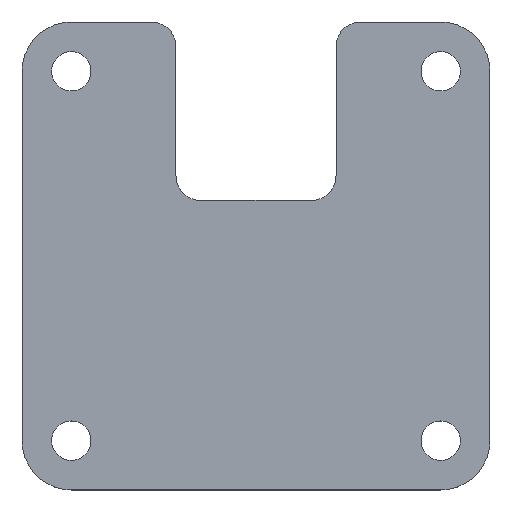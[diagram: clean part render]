
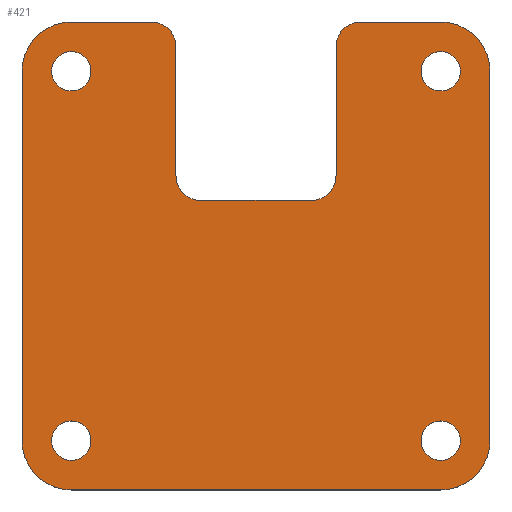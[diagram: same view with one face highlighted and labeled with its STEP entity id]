
A CAD part, top view. The second image highlights one B-rep face of the part: STEP entity #421.
In plain terms, the highlighted planar face has unit normal (0, 0, 1).
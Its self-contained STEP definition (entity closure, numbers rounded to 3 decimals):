
#19=FACE_BOUND('',#68,.T.);
#20=FACE_BOUND('',#69,.T.);
#21=FACE_BOUND('',#70,.T.);
#22=FACE_BOUND('',#71,.T.);
#27=PLANE('',#479);
#41=FACE_OUTER_BOUND('',#67,.T.);
#67=EDGE_LOOP('',(#329,#330,#331,#332,#333,#334,#335,#336,#337,#338,#339,
#340,#341,#342,#343,#344));
#68=EDGE_LOOP('',(#345));
#69=EDGE_LOOP('',(#346));
#70=EDGE_LOOP('',(#347));
#71=EDGE_LOOP('',(#348));
#89=LINE('',#646,#125);
#99=LINE('',#691,#135);
#102=LINE('',#697,#138);
#104=LINE('',#705,#140);
#105=LINE('',#709,#141);
#106=LINE('',#713,#142);
#107=LINE('',#717,#143);
#108=LINE('',#720,#144);
#125=VECTOR('',#515,10.);
#135=VECTOR('',#555,10.);
#138=VECTOR('',#560,10.);
#140=VECTOR('',#572,10.);
#141=VECTOR('',#575,10.);
#142=VECTOR('',#578,10.);
#143=VECTOR('',#581,10.);
#144=VECTOR('',#584,10.);
#157=CIRCLE('',#456,2.);
#170=CIRCLE('',#472,2.);
#171=CIRCLE('',#476,2.);
#172=CIRCLE('',#478,2.);
#173=CIRCLE('',#480,4.);
#174=CIRCLE('',#481,4.);
#175=CIRCLE('',#482,4.);
#176=CIRCLE('',#483,4.);
#177=CIRCLE('',#484,1.6);
#178=CIRCLE('',#485,1.6);
#179=CIRCLE('',#486,1.6);
#180=CIRCLE('',#487,1.6);
#181=VERTEX_POINT('',#633);
#182=VERTEX_POINT('',#634);
#186=VERTEX_POINT('',#644);
#204=VERTEX_POINT('',#684);
#205=VERTEX_POINT('',#686);
#206=VERTEX_POINT('',#690);
#207=VERTEX_POINT('',#694);
#208=VERTEX_POINT('',#696);
#209=VERTEX_POINT('',#704);
#210=VERTEX_POINT('',#706);
#211=VERTEX_POINT('',#708);
#212=VERTEX_POINT('',#710);
#213=VERTEX_POINT('',#712);
#214=VERTEX_POINT('',#714);
#215=VERTEX_POINT('',#716);
#216=VERTEX_POINT('',#718);
#217=VERTEX_POINT('',#721);
#218=VERTEX_POINT('',#723);
#219=VERTEX_POINT('',#725);
#220=VERTEX_POINT('',#727);
#221=EDGE_CURVE('',#181,#182,#157,.T.);
#227=EDGE_CURVE('',#181,#186,#89,.T.);
#247=EDGE_CURVE('',#204,#205,#170,.T.);
#249=EDGE_CURVE('',#206,#205,#99,.T.);
#252=EDGE_CURVE('',#208,#207,#102,.T.);
#254=EDGE_CURVE('',#186,#208,#171,.T.);
#255=EDGE_CURVE('',#207,#206,#172,.T.);
#256=EDGE_CURVE('',#204,#209,#104,.T.);
#257=EDGE_CURVE('',#209,#210,#173,.T.);
#258=EDGE_CURVE('',#210,#211,#105,.T.);
#259=EDGE_CURVE('',#211,#212,#174,.T.);
#260=EDGE_CURVE('',#212,#213,#106,.T.);
#261=EDGE_CURVE('',#213,#214,#175,.T.);
#262=EDGE_CURVE('',#214,#215,#107,.T.);
#263=EDGE_CURVE('',#215,#216,#176,.T.);
#264=EDGE_CURVE('',#216,#182,#108,.T.);
#265=EDGE_CURVE('',#217,#217,#177,.T.);
#266=EDGE_CURVE('',#218,#218,#178,.T.);
#267=EDGE_CURVE('',#219,#219,#179,.T.);
#268=EDGE_CURVE('',#220,#220,#180,.T.);
#329=ORIENTED_EDGE('',*,*,#221,.F.);
#330=ORIENTED_EDGE('',*,*,#227,.T.);
#331=ORIENTED_EDGE('',*,*,#254,.T.);
#332=ORIENTED_EDGE('',*,*,#252,.T.);
#333=ORIENTED_EDGE('',*,*,#255,.T.);
#334=ORIENTED_EDGE('',*,*,#249,.T.);
#335=ORIENTED_EDGE('',*,*,#247,.F.);
#336=ORIENTED_EDGE('',*,*,#256,.T.);
#337=ORIENTED_EDGE('',*,*,#257,.T.);
#338=ORIENTED_EDGE('',*,*,#258,.T.);
#339=ORIENTED_EDGE('',*,*,#259,.T.);
#340=ORIENTED_EDGE('',*,*,#260,.T.);
#341=ORIENTED_EDGE('',*,*,#261,.T.);
#342=ORIENTED_EDGE('',*,*,#262,.T.);
#343=ORIENTED_EDGE('',*,*,#263,.T.);
#344=ORIENTED_EDGE('',*,*,#264,.T.);
#345=ORIENTED_EDGE('',*,*,#265,.T.);
#346=ORIENTED_EDGE('',*,*,#266,.T.);
#347=ORIENTED_EDGE('',*,*,#267,.T.);
#348=ORIENTED_EDGE('',*,*,#268,.T.);
#421=ADVANCED_FACE('',(#41,#19,#20,#21,#22),#27,.T.);
#456=AXIS2_PLACEMENT_3D('',#635,#505,#506);
#472=AXIS2_PLACEMENT_3D('',#687,#550,#551);
#476=AXIS2_PLACEMENT_3D('',#700,#564,#565);
#478=AXIS2_PLACEMENT_3D('',#702,#568,#569);
#479=AXIS2_PLACEMENT_3D('',#703,#570,#571);
#480=AXIS2_PLACEMENT_3D('',#707,#573,#574);
#481=AXIS2_PLACEMENT_3D('',#711,#576,#577);
#482=AXIS2_PLACEMENT_3D('',#715,#579,#580);
#483=AXIS2_PLACEMENT_3D('',#719,#582,#583);
#484=AXIS2_PLACEMENT_3D('',#722,#585,#586);
#485=AXIS2_PLACEMENT_3D('',#724,#587,#588);
#486=AXIS2_PLACEMENT_3D('',#726,#589,#590);
#487=AXIS2_PLACEMENT_3D('',#728,#591,#592);
#505=DIRECTION('center_axis',(0.,0.,-1.));
#506=DIRECTION('ref_axis',(-0.707,0.707,0.));
#515=DIRECTION('',(0.,-1.,0.));
#550=DIRECTION('center_axis',(0.,0.,-1.));
#551=DIRECTION('ref_axis',(0.707,0.707,0.));
#555=DIRECTION('',(0.,1.,0.));
#560=DIRECTION('',(-1.,0.,0.));
#564=DIRECTION('center_axis',(0.,0.,-1.));
#565=DIRECTION('ref_axis',(0.,-1.,0.));
#568=DIRECTION('center_axis',(0.,0.,-1.));
#569=DIRECTION('ref_axis',(-1.,0.,0.));
#570=DIRECTION('center_axis',(0.,0.,1.));
#571=DIRECTION('ref_axis',(1.,0.,0.));
#572=DIRECTION('',(-1.,0.,0.));
#573=DIRECTION('center_axis',(0.,0.,1.));
#574=DIRECTION('ref_axis',(0.,1.,0.));
#575=DIRECTION('',(0.,-1.,0.));
#576=DIRECTION('center_axis',(0.,0.,1.));
#577=DIRECTION('ref_axis',(-1.,0.,0.));
#578=DIRECTION('',(1.,0.,0.));
#579=DIRECTION('center_axis',(0.,0.,1.));
#580=DIRECTION('ref_axis',(0.,-1.,0.));
#581=DIRECTION('',(0.,1.,0.));
#582=DIRECTION('center_axis',(0.,0.,1.));
#583=DIRECTION('ref_axis',(1.,0.,0.));
#584=DIRECTION('',(-1.,0.,0.));
#585=DIRECTION('center_axis',(0.,0.,-1.));
#586=DIRECTION('ref_axis',(1.,0.,0.));
#587=DIRECTION('center_axis',(0.,0.,-1.));
#588=DIRECTION('ref_axis',(1.,0.,0.));
#589=DIRECTION('center_axis',(0.,0.,-1.));
#590=DIRECTION('ref_axis',(1.,0.,0.));
#591=DIRECTION('center_axis',(0.,0.,-1.));
#592=DIRECTION('ref_axis',(1.,0.,0.));
#633=CARTESIAN_POINT('',(29.571,17.,2.));
#634=CARTESIAN_POINT('',(31.571,19.,2.));
#635=CARTESIAN_POINT('Origin',(31.571,17.,2.));
#644=CARTESIAN_POINT('',(29.571,6.507,2.));
#646=CARTESIAN_POINT('',(29.571,11.45,2.));
#684=CARTESIAN_POINT('',(14.571,19.,2.));
#686=CARTESIAN_POINT('',(16.571,17.,2.));
#687=CARTESIAN_POINT('Origin',(14.571,17.,2.));
#690=CARTESIAN_POINT('',(16.571,6.507,2.));
#691=CARTESIAN_POINT('',(16.571,3.254,2.));
#694=CARTESIAN_POINT('',(18.571,4.507,2.));
#696=CARTESIAN_POINT('',(27.571,4.507,2.));
#697=CARTESIAN_POINT('',(25.321,4.507,2.));
#700=CARTESIAN_POINT('Origin',(27.571,6.507,2.));
#702=CARTESIAN_POINT('Origin',(18.571,6.507,2.));
#703=CARTESIAN_POINT('Origin',(23.071,0.,2.));
#704=CARTESIAN_POINT('',(8.071,19.,2.));
#705=CARTESIAN_POINT('',(38.071,19.,2.));
#706=CARTESIAN_POINT('',(4.071,15.,2.));
#707=CARTESIAN_POINT('Origin',(8.071,15.,2.));
#708=CARTESIAN_POINT('',(4.071,-15.,2.));
#709=CARTESIAN_POINT('',(4.071,15.,2.));
#710=CARTESIAN_POINT('',(8.071,-19.,2.));
#711=CARTESIAN_POINT('Origin',(8.071,-15.,2.));
#712=CARTESIAN_POINT('',(38.071,-19.,2.));
#713=CARTESIAN_POINT('',(8.071,-19.,2.));
#714=CARTESIAN_POINT('',(42.071,-15.,2.));
#715=CARTESIAN_POINT('Origin',(38.071,-15.,2.));
#716=CARTESIAN_POINT('',(42.071,15.,2.));
#717=CARTESIAN_POINT('',(42.071,-15.,2.));
#718=CARTESIAN_POINT('',(38.071,19.,2.));
#719=CARTESIAN_POINT('Origin',(38.071,15.,2.));
#720=CARTESIAN_POINT('',(38.071,19.,2.));
#721=CARTESIAN_POINT('',(36.471,15.,2.));
#722=CARTESIAN_POINT('Origin',(38.071,15.,2.));
#723=CARTESIAN_POINT('',(6.471,-15.,2.));
#724=CARTESIAN_POINT('Origin',(8.071,-15.,2.));
#725=CARTESIAN_POINT('',(6.471,15.,2.));
#726=CARTESIAN_POINT('Origin',(8.071,15.,2.));
#727=CARTESIAN_POINT('',(36.471,-15.,2.));
#728=CARTESIAN_POINT('Origin',(38.071,-15.,2.));
